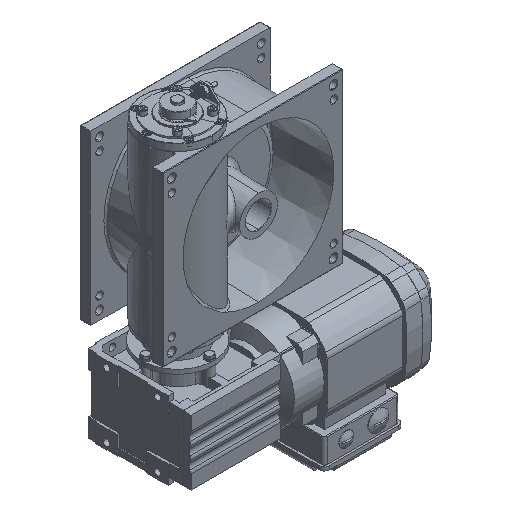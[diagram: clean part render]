
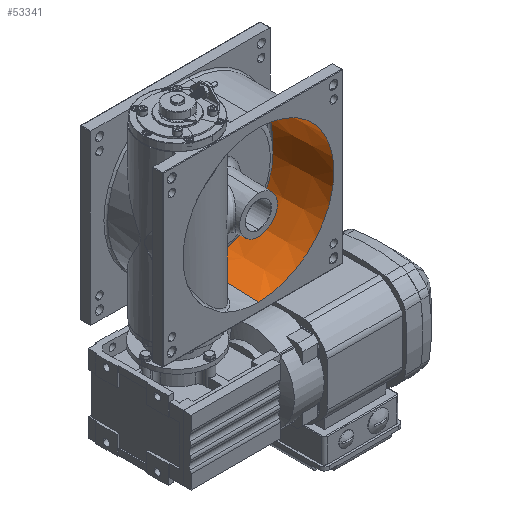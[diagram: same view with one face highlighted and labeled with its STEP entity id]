
A CAD part, isometric view. The second image highlights one B-rep face of the part: STEP entity #53341.
In plain terms, the highlighted conical face has half-angle 2 degrees and reference radius 104.105 mm.
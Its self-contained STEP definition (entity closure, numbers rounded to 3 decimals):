
#217 = DIRECTION ( 'NONE',  ( 0., -0.999, -0.035 ) ) ;
#3551 = DIRECTION ( 'NONE',  ( 0., -0.999, 0.035 ) ) ;
#4135 = CARTESIAN_POINT ( 'NONE',  ( 0., 3., -104. ) ) ;
#5880 = CARTESIAN_POINT ( 'NONE',  ( 0., 0., 0. ) ) ;
#8136 = CARTESIAN_POINT ( 'NONE',  ( 0., 0., 104.105 ) ) ;
#17910 = DIRECTION ( 'NONE',  ( 0., 1., 0. ) ) ;
#19084 = EDGE_LOOP ( 'NONE', ( #35987, #19496, #66431, #69489 ) ) ;
#19496 = ORIENTED_EDGE ( 'NONE', *, *, #25357, .T. ) ;
#22922 = CONICAL_SURFACE ( 'NONE', #57127, 104.105, 0.035 ) ;
#25357 = EDGE_CURVE ( 'NONE', #64890, #28730, #68941, .T. ) ;
#28730 = VERTEX_POINT ( 'NONE', #64735 ) ;
#29041 = VERTEX_POINT ( 'NONE', #55657 ) ;
#31564 = CIRCLE ( 'NONE', #65783, 104. ) ;
#31685 = EDGE_CURVE ( 'NONE', #64890, #29041, #51199, .T. ) ;
#33808 = VERTEX_POINT ( 'NONE', #4135 ) ;
#35987 = ORIENTED_EDGE ( 'NONE', *, *, #31685, .F. ) ;
#37150 = DIRECTION ( 'NONE',  ( 0., -1., 0. ) ) ;
#38517 = CARTESIAN_POINT ( 'NONE',  ( 0., 0., -104.105 ) ) ;
#39618 = DIRECTION ( 'NONE',  ( 0., 0., 1. ) ) ;
#41701 = CARTESIAN_POINT ( 'NONE',  ( 0., 84.705, 101.147 ) ) ;
#42664 = EDGE_CURVE ( 'NONE', #29041, #33808, #31564, .T. ) ;
#42990 = EDGE_CURVE ( 'NONE', #28730, #33808, #65704, .T. ) ;
#43960 = CARTESIAN_POINT ( 'NONE',  ( 0., 3., 0. ) ) ;
#45188 = VECTOR ( 'NONE', #217, 1000. ) ;
#49265 = DIRECTION ( 'NONE',  ( 0., 0., -1. ) ) ;
#51199 = LINE ( 'NONE', #8136, #68615 ) ;
#52981 = DIRECTION ( 'NONE',  ( 0., 1., 0. ) ) ;
#53341 = ADVANCED_FACE ( 'NONE', ( #65747 ), #22922, .F. ) ;
#55657 = CARTESIAN_POINT ( 'NONE',  ( 0., 3., 104. ) ) ;
#57127 = AXIS2_PLACEMENT_3D ( 'NONE', #5880, #37150, #49265 ) ;
#62110 = AXIS2_PLACEMENT_3D ( 'NONE', #66799, #17910, #39618 ) ;
#64735 = CARTESIAN_POINT ( 'NONE',  ( 0., 84.705, -101.147 ) ) ;
#64890 = VERTEX_POINT ( 'NONE', #41701 ) ;
#65704 = LINE ( 'NONE', #38517, #45188 ) ;
#65747 = FACE_OUTER_BOUND ( 'NONE', #19084, .T. ) ;
#65783 = AXIS2_PLACEMENT_3D ( 'NONE', #43960, #52981, #66508 ) ;
#66431 = ORIENTED_EDGE ( 'NONE', *, *, #42990, .T. ) ;
#66508 = DIRECTION ( 'NONE',  ( 0., 0., -1. ) ) ;
#66799 = CARTESIAN_POINT ( 'NONE',  ( 0., 84.705, 0. ) ) ;
#68615 = VECTOR ( 'NONE', #3551, 1000. ) ;
#68941 = CIRCLE ( 'NONE', #62110, 101.147 ) ;
#69489 = ORIENTED_EDGE ( 'NONE', *, *, #42664, .F. ) ;
